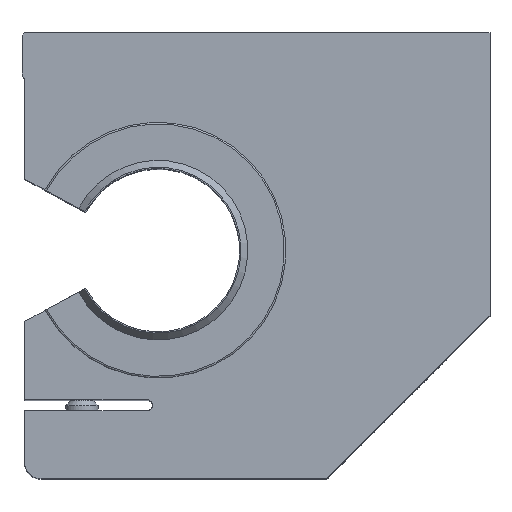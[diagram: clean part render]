
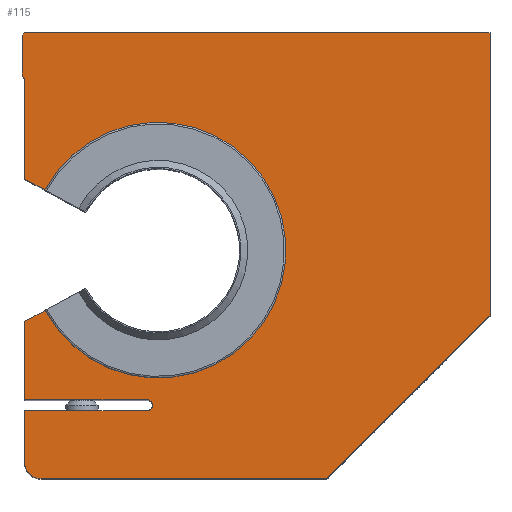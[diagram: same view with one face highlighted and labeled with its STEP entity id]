
A CAD part, top view. The second image highlights one B-rep face of the part: STEP entity #115.
In plain terms, the highlighted planar face has unit normal (0, 0, 1).
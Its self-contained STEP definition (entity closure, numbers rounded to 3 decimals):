
#115=ADVANCED_FACE('',(#259),#260,.F.);
#259=FACE_OUTER_BOUND('',#477,.T.);
#260=PLANE('',#478);
#477=EDGE_LOOP('',(#957,#958,#959,#960,#961,#962,#963,#964,#965,#966,#967,#968,#969,#970,#971,#972,#973));
#478=AXIS2_PLACEMENT_3D('',#974,#975,#976);
#957=ORIENTED_EDGE('',*,*,#1491,.T.);
#958=ORIENTED_EDGE('',*,*,#1492,.T.);
#959=ORIENTED_EDGE('',*,*,#1482,.T.);
#960=ORIENTED_EDGE('',*,*,#1479,.T.);
#961=ORIENTED_EDGE('',*,*,#1474,.T.);
#962=ORIENTED_EDGE('',*,*,#1471,.T.);
#963=ORIENTED_EDGE('',*,*,#1468,.T.);
#964=ORIENTED_EDGE('',*,*,#1465,.T.);
#965=ORIENTED_EDGE('',*,*,#1427,.T.);
#966=ORIENTED_EDGE('',*,*,#1362,.T.);
#967=ORIENTED_EDGE('',*,*,#1446,.T.);
#968=ORIENTED_EDGE('',*,*,#1493,.T.);
#969=ORIENTED_EDGE('',*,*,#1494,.T.);
#970=ORIENTED_EDGE('',*,*,#1495,.T.);
#971=ORIENTED_EDGE('',*,*,#1496,.T.);
#972=ORIENTED_EDGE('',*,*,#1497,.T.);
#973=ORIENTED_EDGE('',*,*,#1498,.T.);
#974=CARTESIAN_POINT('',(0.0,0.0,39.5));
#975=DIRECTION('',(0.0,0.0,-1.0));
#976=DIRECTION('',(0.0,-1.0,0.0));
#1362=EDGE_CURVE('',#1638,#1636,#1639,.T.);
#1427=EDGE_CURVE('',#1750,#1638,#1751,.T.);
#1446=EDGE_CURVE('',#1636,#1778,#1780,.T.);
#1465=EDGE_CURVE('',#1809,#1750,#1810,.T.);
#1468=EDGE_CURVE('',#1814,#1809,#1815,.T.);
#1471=EDGE_CURVE('',#1819,#1814,#1820,.T.);
#1474=EDGE_CURVE('',#1824,#1819,#1825,.T.);
#1479=EDGE_CURVE('',#1833,#1824,#1834,.T.);
#1482=EDGE_CURVE('',#1838,#1833,#1839,.T.);
#1491=EDGE_CURVE('',#1851,#1852,#1853,.T.);
#1492=EDGE_CURVE('',#1852,#1838,#1854,.F.);
#1493=EDGE_CURVE('',#1778,#1855,#1856,.T.);
#1494=EDGE_CURVE('',#1855,#1857,#1858,.T.);
#1495=EDGE_CURVE('',#1857,#1859,#1860,.T.);
#1496=EDGE_CURVE('',#1859,#1861,#1862,.T.);
#1497=EDGE_CURVE('',#1861,#1863,#1864,.T.);
#1498=EDGE_CURVE('',#1863,#1851,#1865,.T.);
#1636=VERTEX_POINT('',#2045);
#1638=VERTEX_POINT('',#2048);
#1639=CIRCLE('',#2049,23.5);
#1750=VERTEX_POINT('',#2250);
#1751=LINE('',#2251,#2252);
#1778=VERTEX_POINT('',#2304);
#1780=LINE('',#2307,#2308);
#1809=VERTEX_POINT('',#2371);
#1810=LINE('',#2372,#2373);
#1814=VERTEX_POINT('',#2379);
#1815=LINE('',#2380,#2381);
#1819=VERTEX_POINT('',#2387);
#1820=LINE('',#2388,#2389);
#1824=VERTEX_POINT('',#2395);
#1825=LINE('',#2396,#2397);
#1833=VERTEX_POINT('',#2407);
#1834=LINE('',#2408,#2409);
#1838=VERTEX_POINT('',#2414);
#1839=LINE('',#2415,#2416);
#1851=VERTEX_POINT('',#2430);
#1852=VERTEX_POINT('',#2431);
#1853=LINE('',#2432,#2433);
#1854=LINE('',#2434,#2435);
#1855=VERTEX_POINT('',#2436);
#1856=LINE('',#2437,#2438);
#1857=VERTEX_POINT('',#2439);
#1858=LINE('',#2440,#2441);
#1859=VERTEX_POINT('',#2442);
#1860=CIRCLE('',#2443,1.0);
#1861=VERTEX_POINT('',#2444);
#1862=LINE('',#2445,#2446);
#1863=VERTEX_POINT('',#2447);
#1864=LINE('',#2448,#2449);
#1865=CIRCLE('',#2450,3.0);
#2045=CARTESIAN_POINT('',(-20.737,-11.056,39.5));
#2048=CARTESIAN_POINT('',(-20.737,11.056,39.5));
#2049=AXIS2_PLACEMENT_3D('',#2634,#2635,#2636);
#2250=CARTESIAN_POINT('',(-24.5,13.099,39.5));
#2251=CARTESIAN_POINT('',(-24.5,13.099,39.5));
#2252=VECTOR('',#2731,1.0);
#2304=CARTESIAN_POINT('',(-24.5,-13.099,39.5));
#2307=CARTESIAN_POINT('',(-20.737,-11.056,39.5));
#2308=VECTOR('',#2747,1.0);
#2371=CARTESIAN_POINT('',(-24.5,31.5,39.5));
#2372=CARTESIAN_POINT('',(-24.5,31.5,39.5));
#2373=VECTOR('',#2761,1.0);
#2379=CARTESIAN_POINT('',(-25.0,32.0,39.5));
#2380=CARTESIAN_POINT('',(-25.0,32.0,39.5));
#2381=VECTOR('',#2764,1.0);
#2387=CARTESIAN_POINT('',(-25.0,39.5,39.5));
#2388=CARTESIAN_POINT('',(-25.0,39.5,39.5));
#2389=VECTOR('',#2767,1.0);
#2395=CARTESIAN_POINT('',(-24.5,40.0,39.5));
#2396=CARTESIAN_POINT('',(-24.5,40.0,39.5));
#2397=VECTOR('',#2770,1.0);
#2407=CARTESIAN_POINT('',(61.0,40.0,39.5));
#2408=CARTESIAN_POINT('',(61.0,40.0,39.5));
#2409=VECTOR('',#2779,1.0);
#2414=CARTESIAN_POINT('',(61.0,-12.,39.5));
#2415=CARTESIAN_POINT('',(61.0,-42.0,39.5));
#2416=VECTOR('',#2784,1.0);
#2430=CARTESIAN_POINT('',(-21.5,-42.0,39.5));
#2431=CARTESIAN_POINT('',(31.0,-42.0,39.5));
#2432=CARTESIAN_POINT('',(-21.5,-42.0,39.5));
#2433=VECTOR('',#2799,1.0);
#2434=CARTESIAN_POINT('',(61.0,-12.,39.5));
#2435=VECTOR('',#2800,1.0);
#2436=CARTESIAN_POINT('',(-24.5,-27.5,39.5));
#2437=CARTESIAN_POINT('',(-24.5,-13.099,39.5));
#2438=VECTOR('',#2801,1.0);
#2439=CARTESIAN_POINT('',(-2.0,-27.5,39.5));
#2440=CARTESIAN_POINT('',(-24.5,-27.5,39.5));
#2441=VECTOR('',#2802,1.0);
#2442=CARTESIAN_POINT('',(-2.0,-29.5,39.5));
#2443=AXIS2_PLACEMENT_3D('',#2803,#2804,#2805);
#2444=CARTESIAN_POINT('',(-24.5,-29.5,39.5));
#2445=CARTESIAN_POINT('',(-2.0,-29.5,39.5));
#2446=VECTOR('',#2806,1.0);
#2447=CARTESIAN_POINT('',(-24.5,-39.0,39.5));
#2448=CARTESIAN_POINT('',(-24.5,-29.5,39.5));
#2449=VECTOR('',#2807,1.0);
#2450=AXIS2_PLACEMENT_3D('',#2808,#2809,#2810);
#2634=CARTESIAN_POINT('',(0.0,0.0,39.5));
#2635=DIRECTION('',(0.0,0.0,-1.0));
#2636=DIRECTION('',(1.0,0.0,0.0));
#2731=DIRECTION('',(0.879,-0.477,0.0));
#2747=DIRECTION('',(-0.879,-0.477,0.0));
#2761=DIRECTION('',(0.0,-1.0,0.0));
#2764=DIRECTION('',(0.707,-0.707,0.0));
#2767=DIRECTION('',(0.0,-1.0,0.0));
#2770=DIRECTION('',(-0.707,-0.707,0.0));
#2779=DIRECTION('',(-1.0,0.0,0.0));
#2784=DIRECTION('',(0.0,1.0,0.0));
#2799=DIRECTION('',(1.0,0.,0.0));
#2800=DIRECTION('',(-0.707,-0.707,0.0));
#2801=DIRECTION('',(0.0,-1.0,0.0));
#2802=DIRECTION('',(1.0,0.0,0.0));
#2803=CARTESIAN_POINT('',(-2.0,-28.5,39.5));
#2804=DIRECTION('',(0.0,0.0,-1.0));
#2805=DIRECTION('',(1.0,0.0,0.0));
#2806=DIRECTION('',(-1.0,0.0,0.0));
#2807=DIRECTION('',(0.0,-1.0,0.0));
#2808=CARTESIAN_POINT('',(-21.5,-39.0,39.5));
#2809=DIRECTION('',(0.0,0.0,1.0));
#2810=DIRECTION('',(1.0,0.0,0.0));
